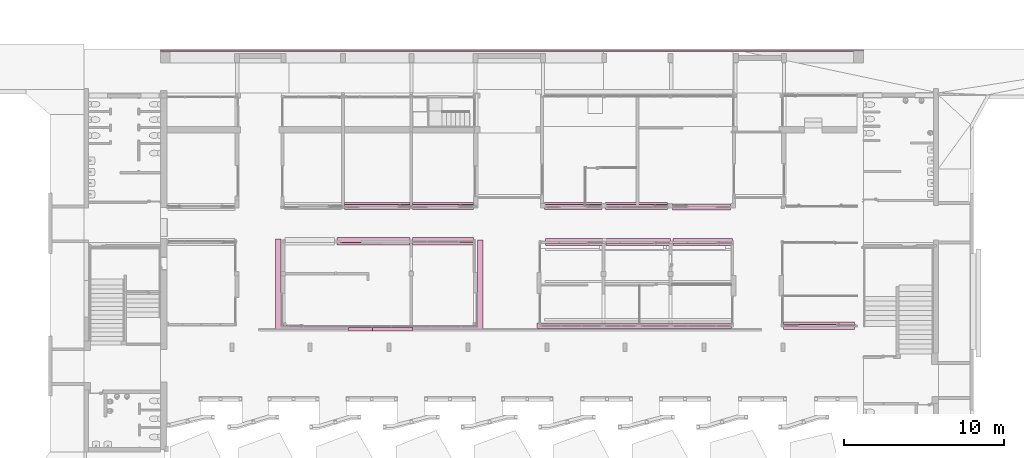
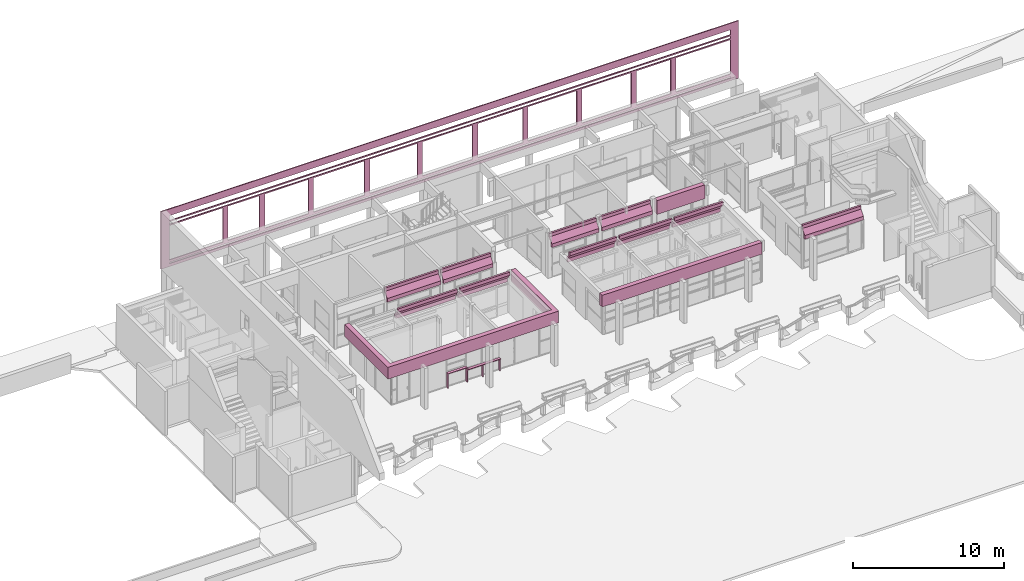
# One storey, part 114 of 117: 13 furniture elements.
"""IFC4 building model written with IfcOpenShell, lengths in metres."""

from ifc_helpers import new_model, entity, si_unit, converted_unit, derived_unit, direction, frame, origin, place, context, subcontext, project, spatial, indexed_curve, outline, extrude, source, transform, mapped, material, type_object, type_shapes, element, save


model = new_model("IFC4")

# Units and contexts
model_context = context("Model", 3, precision=1e-05, world=origin(), true_north=direction((6.123031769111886e-17, 1.0)))
body_context = subcontext(model_context, "Body", "Model", "MODEL_VIEW")
ifc_project = project(units=[si_unit("LENGTHUNIT", "METRE"), si_unit("AREAUNIT", "SQUARE_METRE"), si_unit("VOLUMEUNIT", "CUBIC_METRE"), converted_unit("PLANEANGLEUNIT", "DEGREE", entity("IfcRatioMeasure", 0.017453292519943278), si_unit("PLANEANGLEUNIT", "RADIAN"), dimensions=[0, 0, 0, 0, 0, 0, 0]), si_unit("MASSUNIT", "GRAM", prefix="KILO"), derived_unit("MASSDENSITYUNIT", [(si_unit("MASSUNIT", "GRAM", prefix="KILO"), 1), (si_unit("LENGTHUNIT", "METRE"), -3)]), derived_unit("MOMENTOFINERTIAUNIT", [(si_unit("LENGTHUNIT", "METRE"), 4)]), si_unit("TIMEUNIT", "SECOND"), si_unit("FREQUENCYUNIT", "HERTZ"), si_unit("THERMODYNAMICTEMPERATUREUNIT", "DEGREE_CELSIUS"), derived_unit("THERMALTRANSMITTANCEUNIT", [(si_unit("MASSUNIT", "GRAM", prefix="KILO"), 1), (si_unit("THERMODYNAMICTEMPERATUREUNIT", "KELVIN"), -1), (si_unit("TIMEUNIT", "SECOND"), -3)]), derived_unit("VOLUMETRICFLOWRATEUNIT", [(si_unit("LENGTHUNIT", "METRE"), 3), (si_unit("TIMEUNIT", "SECOND"), -1)]), derived_unit("MASSFLOWRATEUNIT", [(si_unit("MASSUNIT", "GRAM", prefix="KILO"), 1), (si_unit("TIMEUNIT", "SECOND"), -1)]), derived_unit("ROTATIONALFREQUENCYUNIT", [(si_unit("TIMEUNIT", "SECOND"), -1)]), si_unit("ELECTRICCURRENTUNIT", "AMPERE"), si_unit("ELECTRICVOLTAGEUNIT", "VOLT"), si_unit("POWERUNIT", "WATT"), si_unit("FORCEUNIT", "NEWTON", prefix="KILO"), si_unit("ILLUMINANCEUNIT", "LUX"), si_unit("LUMINOUSFLUXUNIT", "LUMEN"), si_unit("LUMINOUSINTENSITYUNIT", "CANDELA"), derived_unit("USERDEFINED", [(si_unit("MASSUNIT", "GRAM", prefix="KILO"), -1), (si_unit("LENGTHUNIT", "METRE"), -2), (si_unit("TIMEUNIT", "SECOND"), 3), (si_unit("LUMINOUSFLUXUNIT", "LUMEN"), 1)]), derived_unit("SOUNDPOWERUNIT", [(si_unit("MASSUNIT", "GRAM", prefix="KILO"), 1), (si_unit("LENGTHUNIT", "METRE"), 2), (si_unit("TIMEUNIT", "SECOND"), -3)]), derived_unit("SOUNDPRESSUREUNIT", [(si_unit("MASSUNIT", "GRAM", prefix="KILO"), 1), (si_unit("LENGTHUNIT", "METRE"), -1), (si_unit("TIMEUNIT", "SECOND"), -2)]), derived_unit("LINEARVELOCITYUNIT", [(si_unit("LENGTHUNIT", "METRE"), 1), (si_unit("TIMEUNIT", "SECOND"), -1)]), si_unit("PRESSUREUNIT", "PASCAL"), derived_unit("USERDEFINED", [(si_unit("LENGTHUNIT", "METRE"), -2), (si_unit("MASSUNIT", "GRAM", prefix="KILO"), 1), (si_unit("TIMEUNIT", "SECOND"), -2)]), derived_unit("LINEARFORCEUNIT", [(si_unit("MASSUNIT", "GRAM", prefix="KILO"), 1), (si_unit("LENGTHUNIT", "METRE"), 1), (si_unit("TIMEUNIT", "SECOND"), -2), (si_unit("LENGTHUNIT", "METRE"), -1)]), derived_unit("PLANARFORCEUNIT", [(si_unit("MASSUNIT", "GRAM", prefix="KILO"), 1), (si_unit("LENGTHUNIT", "METRE"), 1), (si_unit("TIMEUNIT", "SECOND"), -2), (si_unit("LENGTHUNIT", "METRE"), -2)])], contexts=[model_context])

# Site, building, storey
site_placement = place(None, origin())
site = spatial("IfcSite", under=ifc_project, at=site_placement, Name="Superficie", CompositionType="ELEMENT")
building_placement = place(site_placement, origin())
building = spatial("IfcBuilding", under=site, at=building_placement, CompositionType="ELEMENT")
storey_placement = place(building_placement, origin())
storey = spatial("IfcBuildingStorey", under=building, at=storey_placement, Name="Nivel 0", CompositionType="ELEMENT", Elevation=0.0)

# Furniture
ifc_material = material(Name="Madera - Listel", Category="Madera")
furniture_type_1 = type_object("IfcFurnitureType", Name="tramo 2:tramo 1", AssemblyPlace="NOTDEFINED", PredefinedType="NOTDEFINED", material=ifc_material)
shared_shape_1 = source(origin(), body_context, "Body", "SweptSolid", [
    extrude(outline(indexed_curve([(-0.1600000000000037, -1.4520987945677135), (-0.06000000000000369, -1.4520987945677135), (0.18999999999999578, -1.4520987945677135), (0.1900000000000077, 2.178148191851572), (-0.1599999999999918, 2.1781481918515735), (-0.1600000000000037, -1.4520987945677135)], self_intersect=False)), frame((11.219700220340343, 5.716739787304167, 2.3352405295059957), z_axis=(0.0, 0.0, 1.0), x_axis=(0.0, 1.0, 0.0)), (0.0, 0.0, 1.0), 1.1103842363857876),
    extrude(outline(indexed_curve([(-5.471879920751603, -2.2616023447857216), (-5.471879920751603, 3.064767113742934), (-5.821879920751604, 3.064767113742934), (-5.821879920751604, -2.6116023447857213), (-5.481879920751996, -2.6116023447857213), (7.192349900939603, -2.611602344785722), (7.192349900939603, 3.1142387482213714), (6.8423499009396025, 3.11423874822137), (6.8423499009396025, -2.2616023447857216), (-5.471879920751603, -2.2616023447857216)], self_intersect=False)), frame((-8.655851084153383, 0.6061983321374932, 2.35), z_axis=(0.0, 0.0, -1.0), x_axis=(-1.0, 0.0, 0.0)), (0.0, 0.0, -1.0), 0.9499999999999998),
    extrude(outline(indexed_curve([(-6.089999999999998, -0.1717666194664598), (6.089999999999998, -0.1717666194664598), (6.089999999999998, 0.1717666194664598), (-6.089999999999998, 0.1717666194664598), (-6.089999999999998, -0.1717666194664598)], self_intersect=False)), frame((6.6317990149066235, -1.721329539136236, 2.3600000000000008), z_axis=(0.0, 0.0, 1.0), x_axis=(-1.0, 0.0, 0.0)), (0.0, 0.0, 1.0), 0.9399999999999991),
])
type_shapes(furniture_type_1, [shared_shape_1])
furniture_1_placement = place(storey_placement, origin())
element("IfcFurniture", 1, at=furniture_1_placement, inside=storey, type_object=furniture_type_1, material=ifc_material, Name="tramo 2:tramo 1", ObjectType="tramo 2:tramo 1", PredefinedType="NOTDEFINED", context=body_context, shape_type="MappedRepresentation", body=[
    mapped(shared_shape_1, transform((0.0, 0.0, 0.0), scale=1.0)),
])
furniture_type_2 = type_object("IfcFurnitureType", Name="Mobiliario 4:Mobiliario 4", AssemblyPlace="NOTDEFINED", PredefinedType="NOTDEFINED", material=ifc_material)
shared_shape_2 = source(origin(), body_context, "Body", "SweptSolid", [
    extrude(outline(indexed_curve([(-0.49000000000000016, -0.22500000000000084), (-0.1900000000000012, -0.22500000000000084), (0.20999999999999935, 0.07499999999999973), (0.4699999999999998, 0.07499999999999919), (0.4699999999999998, 0.22499999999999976), (0.21000000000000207, 0.22499999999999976), (-0.1900000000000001, -0.07500000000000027), (-0.49000000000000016, -0.07500000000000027), (-0.49000000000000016, -0.22500000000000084)], self_intersect=False)), frame((9.071001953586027, 3.53082928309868, 2.9299999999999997), z_axis=(1.0, 0.0, 0.0), x_axis=(0.0, 0.0, 1.0)), (0.0, 0.0, 1.0), 3.7149999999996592),
])
type_shapes(furniture_type_2, [shared_shape_2])
furniture_2_placement = place(storey_placement, origin())
element("IfcFurniture", 2, at=furniture_2_placement, inside=storey, type_object=furniture_type_2, material=ifc_material, Name="Mobiliario 4:Mobiliario 4", ObjectType="Mobiliario 4:Mobiliario 4", PredefinedType="NOTDEFINED", context=body_context, shape_type="MappedRepresentation", body=[
    mapped(shared_shape_2, transform((0.0, 0.0, 0.0), scale=1.0)),
])
furniture_type_3 = type_object("IfcFurnitureType", Name="Mobiliario 3:Mobiliario 4", AssemblyPlace="NOTDEFINED", PredefinedType="NOTDEFINED", material=ifc_material)
shared_shape_3 = source(origin(), body_context, "Body", "SweptSolid", [
    extrude(outline(indexed_curve([(-0.49000000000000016, -0.22500000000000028), (-0.1900000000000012, -0.22500000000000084), (0.20999999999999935, 0.07500000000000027), (0.4699999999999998, 0.07499999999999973), (0.4699999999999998, 0.22500000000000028), (0.21000000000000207, 0.22500000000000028), (-0.1900000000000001, -0.07499999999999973), (-0.49000000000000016, -0.07499999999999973), (-0.49000000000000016, -0.22500000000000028)], self_intersect=False)), frame((4.871001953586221, 3.530829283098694, 2.9299999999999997), z_axis=(1.0, 0.0, 0.0), x_axis=(0.0, 0.0, 1.0)), (0.0, 0.0, 1.0), 4.019999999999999),
])
type_shapes(furniture_type_3, [shared_shape_3])
furniture_3_placement = place(storey_placement, origin())
element("IfcFurniture", 3, at=furniture_3_placement, inside=storey, type_object=furniture_type_3, material=ifc_material, Name="Mobiliario 3:Mobiliario 4", ObjectType="Mobiliario 3:Mobiliario 4", PredefinedType="NOTDEFINED", context=body_context, shape_type="MappedRepresentation", body=[
    mapped(shared_shape_3, transform((0.0, 0.0, 0.0), scale=1.0)),
])
furniture_type_4 = type_object("IfcFurnitureType", Name="Mobiliario 5:Mobiliario 4", AssemblyPlace="NOTDEFINED", PredefinedType="NOTDEFINED", material=ifc_material)
shared_shape_4 = source(origin(), body_context, "Body", "SweptSolid", [
    extrude(outline(indexed_curve([(-0.49000000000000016, -0.22500000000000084), (-0.1900000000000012, -0.22500000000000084), (0.20999999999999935, 0.07499999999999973), (0.4699999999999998, 0.07499999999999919), (0.4699999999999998, 0.22499999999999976), (0.21000000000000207, 0.22499999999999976), (-0.1900000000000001, -0.07500000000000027), (-0.49000000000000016, -0.07500000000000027), (-0.49000000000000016, -0.22500000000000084)], self_intersect=False)), frame((1.0810019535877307, 3.530829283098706, 2.9299999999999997), z_axis=(1.0, 0.0, 0.0), x_axis=(0.0, 0.0, 1.0)), (0.0, 0.0, 1.0), 3.600000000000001),
])
type_shapes(furniture_type_4, [shared_shape_4])
furniture_4_placement = place(storey_placement, origin())
element("IfcFurniture", 4, at=furniture_4_placement, inside=storey, type_object=furniture_type_4, material=ifc_material, Name="Mobiliario 5:Mobiliario 4", ObjectType="Mobiliario 5:Mobiliario 4", PredefinedType="NOTDEFINED", context=body_context, shape_type="MappedRepresentation", body=[
    mapped(shared_shape_4, transform((0.0, 0.0, 0.0), scale=1.0)),
])
furniture_type_5 = type_object("IfcFurnitureType", Name="Mobiliario 6:Mobiliario 4", AssemblyPlace="NOTDEFINED", PredefinedType="NOTDEFINED", material=ifc_material)
shared_shape_5 = source(origin(), body_context, "Body", "SweptSolid", [
    extrude(outline(indexed_curve([(-0.49000000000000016, -0.22499999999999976), (-0.1900000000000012, -0.22499999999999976), (0.20999999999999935, 0.07500000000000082), (0.4699999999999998, 0.07500000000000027), (0.4699999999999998, 0.22500000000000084), (0.21000000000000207, 0.22500000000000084), (-0.1900000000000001, -0.07499999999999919), (-0.49000000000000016, -0.07499999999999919), (-0.49000000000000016, -0.22499999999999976)], self_intersect=False)), frame((-6.633998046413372, 3.530829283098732, 2.9299999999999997), z_axis=(1.0, 0.0, 0.0), x_axis=(0.0, 0.0, 1.0)), (0.0, 0.0, 1.0), 3.799999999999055),
])
type_shapes(furniture_type_5, [shared_shape_5])
furniture_5_placement = place(storey_placement, frame((-0.6192029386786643, 0.054607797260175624, 0.0)))
element("IfcFurniture", 5, at=furniture_5_placement, inside=storey, type_object=furniture_type_5, material=ifc_material, Name="Mobiliario 6:Mobiliario 4", ObjectType="Mobiliario 6:Mobiliario 4", PredefinedType="NOTDEFINED", context=body_context, shape_type="MappedRepresentation", body=[
    mapped(shared_shape_5, transform((0.0, 0.0, 0.0), scale=1.0)),
])
furniture_type_6 = type_object("IfcFurnitureType", Name="Mobiliario 7:Mobiliario 4", AssemblyPlace="NOTDEFINED", PredefinedType="NOTDEFINED", material=ifc_material)
shared_shape_6 = source(origin(), body_context, "Body", "SweptSolid", [
    extrude(outline(indexed_curve([(-0.49000000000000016, -0.22500000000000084), (-0.1900000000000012, -0.22500000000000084), (0.20999999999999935, 0.07499999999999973), (0.4699999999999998, 0.07499999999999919), (0.4699999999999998, 0.22499999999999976), (0.21000000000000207, 0.22499999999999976), (-0.1900000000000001, -0.07500000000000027), (-0.49000000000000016, -0.07500000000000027), (-0.49000000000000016, -0.22500000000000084)], self_intersect=False)), frame((-11.363200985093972, 3.530829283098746, 2.9299999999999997), z_axis=(1.0, 0.0, 0.0), x_axis=(0.0, 0.0, 1.0)), (0.0, 0.0, 1.0), 4.549202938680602),
])
type_shapes(furniture_type_6, [shared_shape_6])
furniture_6_placement = place(storey_placement, frame((-0.6192029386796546, 0.054607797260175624, 0.0)))
element("IfcFurniture", 6, at=furniture_6_placement, inside=storey, type_object=furniture_type_6, material=ifc_material, Name="Mobiliario 7:Mobiliario 4", ObjectType="Mobiliario 7:Mobiliario 4", PredefinedType="NOTDEFINED", context=body_context, shape_type="MappedRepresentation", body=[
    mapped(shared_shape_6, transform((0.0, 0.0, 0.0), scale=1.0)),
])
furniture_type_7 = type_object("IfcFurnitureType", Name="Mobiliario 12:Mobiliario 4", AssemblyPlace="NOTDEFINED", PredefinedType="NOTDEFINED", material=ifc_material)
shared_shape_7 = source(origin(), body_context, "Body", "SweptSolid", [
    extrude(outline(indexed_curve([(-0.22499999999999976, -0.49000000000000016), (-0.07499999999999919, -0.49000000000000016), (-0.07499999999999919, -0.1900000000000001), (0.22499999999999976, 0.210000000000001), (0.22499999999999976, 0.4699999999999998), (0.07499999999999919, 0.4699999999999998), (0.07500000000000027, 0.20999999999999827), (-0.22499999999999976, -0.1900000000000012), (-0.22499999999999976, -0.49000000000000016)], self_intersect=False)), frame((-11.523200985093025, 5.800467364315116, 2.9299999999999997), z_axis=(1.0, 0.0, 0.0), x_axis=(0.0, 1.0, 0.0)), (0.0, 0.0, 1.0), 4.090000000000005),
])
type_shapes(furniture_type_7, [shared_shape_7])
furniture_7_placement = place(storey_placement, origin())
element("IfcFurniture", 7, at=furniture_7_placement, inside=storey, type_object=furniture_type_7, material=ifc_material, Name="Mobiliario 12:Mobiliario 4", ObjectType="Mobiliario 12:Mobiliario 4", PredefinedType="NOTDEFINED", context=body_context, shape_type="MappedRepresentation", body=[
    mapped(shared_shape_7, transform((0.0, 0.0, 0.0), scale=1.0)),
])
furniture_type_8 = type_object("IfcFurnitureType", Name="Mobiliario 13:Mobiliario 4", AssemblyPlace="NOTDEFINED", PredefinedType="NOTDEFINED", material=ifc_material)
shared_shape_8 = source(origin(), body_context, "Body", "SweptSolid", [
    extrude(outline(indexed_curve([(-0.22499999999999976, -0.49000000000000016), (-0.07499999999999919, -0.49000000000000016), (-0.07499999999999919, -0.1900000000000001), (0.22499999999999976, 0.210000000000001), (0.22499999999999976, 0.4699999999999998), (0.07499999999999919, 0.4699999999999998), (0.07500000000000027, 0.20999999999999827), (-0.22499999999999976, -0.1900000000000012), (-0.22499999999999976, -0.49000000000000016)], self_intersect=False)), frame((-7.253200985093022, 5.800467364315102, 2.9299999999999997), z_axis=(1.0, 0.0, 0.0), x_axis=(0.0, 1.0, 0.0)), (0.0, 0.0, 1.0), 3.8000000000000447),
])
type_shapes(furniture_type_8, [shared_shape_8])
furniture_8_placement = place(storey_placement, origin())
element("IfcFurniture", 8, at=furniture_8_placement, inside=storey, type_object=furniture_type_8, material=ifc_material, Name="Mobiliario 13:Mobiliario 4", ObjectType="Mobiliario 13:Mobiliario 4", PredefinedType="NOTDEFINED", context=body_context, shape_type="MappedRepresentation", body=[
    mapped(shared_shape_8, transform((0.0, 0.0, 0.0), scale=1.0)),
])
furniture_type_9 = type_object("IfcFurnitureType", Name="Mobiliario 14:Mobiliario 4", AssemblyPlace="NOTDEFINED", PredefinedType="NOTDEFINED", material=ifc_material)
shared_shape_9 = source(origin(), body_context, "Body", "SweptSolid", [
    extrude(outline(indexed_curve([(-0.22500000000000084, -0.49000000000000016), (-0.07500000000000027, -0.49000000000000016), (-0.07500000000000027, -0.1900000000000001), (0.22499999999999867, 0.210000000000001), (0.22499999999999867, 0.4699999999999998), (0.07499999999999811, 0.4699999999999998), (0.07499999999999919, 0.20999999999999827), (-0.22500000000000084, -0.1900000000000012), (-0.22500000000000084, -0.49000000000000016)], self_intersect=False)), frame((1.0615520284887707, 5.980829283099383, 2.9299999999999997), z_axis=(1.0, 0.0, 0.0), x_axis=(0.0, 1.0, 0.0)), (0.0, 0.0, 1.0), 3.584202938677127),
])
type_shapes(furniture_type_9, [shared_shape_9])
furniture_9_placement = place(storey_placement, frame((-0.039999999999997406, -0.18036191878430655, 0.0)))
element("IfcFurniture", 9, at=furniture_9_placement, inside=storey, type_object=furniture_type_9, material=ifc_material, Name="Mobiliario 14:Mobiliario 4", ObjectType="Mobiliario 14:Mobiliario 4", PredefinedType="NOTDEFINED", context=body_context, shape_type="MappedRepresentation", body=[
    mapped(shared_shape_9, transform((0.0, 0.0, 0.0), scale=1.0)),
])
furniture_type_10 = type_object("IfcFurnitureType", Name="Mobiliario 16:Mobiliario 4", AssemblyPlace="NOTDEFINED", PredefinedType="NOTDEFINED", material=ifc_material)
shared_shape_10 = source(origin(), body_context, "Body", "SweptSolid", [
    extrude(outline(indexed_curve([(-0.225, -0.49000000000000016), (-0.07499999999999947, -0.49000000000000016), (-0.07499999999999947, -0.1900000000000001), (0.22499999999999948, 0.210000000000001), (0.22499999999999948, 0.4699999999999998), (0.07499999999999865, 0.4699999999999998), (0.07499999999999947, 0.20999999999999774), (-0.225, -0.1900000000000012), (-0.225, -0.49000000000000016)], self_intersect=False)), frame((15.966799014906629, -1.7103873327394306, 2.9299999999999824), z_axis=(1.0, 0.0, 0.0), x_axis=(0.0, 1.0, 0.0)), (0.0, 0.0, 1.0), 4.469999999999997),
])
type_shapes(furniture_type_10, [shared_shape_10])
furniture_10_placement = place(storey_placement, origin())
element("IfcFurniture", 10, at=furniture_10_placement, inside=storey, type_object=furniture_type_10, material=ifc_material, Name="Mobiliario 16:Mobiliario 4", ObjectType="Mobiliario 16:Mobiliario 4", PredefinedType="NOTDEFINED", context=body_context, shape_type="MappedRepresentation", body=[
    mapped(shared_shape_10, transform((0.0, 0.0, 0.0), scale=1.0)),
])
furniture_type_11 = type_object("IfcFurnitureType", Name="Mostrador:Mostrador", AssemblyPlace="NOTDEFINED", PredefinedType="NOTDEFINED", material=ifc_material)
shared_shape_11 = source(origin(), body_context, "Body", "SweptSolid", [
    extrude(outline(indexed_curve([(-0.10499999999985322, -1.2607825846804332), (0.10499999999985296, -1.2607825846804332), (0.10499999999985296, 1.2607825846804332), (-0.10499999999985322, 1.2607825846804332), (-0.10499999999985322, -1.2607825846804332)], self_intersect=False)), frame((-8.513983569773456, -1.9191707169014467, 0.95), z_axis=(0.0, 0.0, 1.0), x_axis=(0.0, 1.0, 0.0)), (0.0, 0.0, 1.0), 0.05),
    extrude(outline(indexed_curve([(-0.10499999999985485, -0.02499999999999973), (0.10499999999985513, -0.02499999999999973), (0.10499999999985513, 0.02499999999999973), (-0.10499999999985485, 0.02499999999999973), (-0.10499999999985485, -0.02499999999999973)], self_intersect=False)), frame((-8.584766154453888, -1.8957554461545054, 0.0), z_axis=(0.0, 0.0, 1.0), x_axis=(0.0, -1.0, 0.0)), (0.0, 0.0, 1.0), 0.95),
    extrude(outline(indexed_curve([(-0.10499999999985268, -0.02499999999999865), (0.10499999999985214, -0.02499999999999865), (0.10499999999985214, 0.025000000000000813), (-0.10499999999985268, 0.025000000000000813), (-0.10499999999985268, -0.02499999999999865)], self_intersect=False)), frame((-7.278200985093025, -1.8957554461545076, 0.0), z_axis=(0.0, 0.0, 1.0), x_axis=(0.0, -1.0, 0.0)), (0.0, 0.0, 1.0), 0.95),
    extrude(outline(indexed_curve([(-0.10499999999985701, -0.7525000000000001), (0.10499999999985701, -0.7525000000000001), (0.10499999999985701, 0.7524999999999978), (-0.10499999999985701, 0.7524999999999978), (-0.10499999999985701, -0.7525000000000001)], self_intersect=False)), frame((-10.52726615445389, -1.919170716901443, 1.15), z_axis=(0.0, 0.0, 1.0), x_axis=(0.0, 1.0, 0.0)), (0.0, 0.0, 1.0), 0.05),
    extrude(outline(indexed_curve([(-0.02499999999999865, -0.10499999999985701), (0.025000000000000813, -0.10499999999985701), (0.025000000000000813, 0.10499999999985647), (-0.02499999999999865, 0.10499999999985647), (-0.02499999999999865, -0.10499999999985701)], self_intersect=False)), frame((-9.79976615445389, -1.9191707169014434, 0.0), z_axis=(0.0, 0.0, 1.0), x_axis=(-1.0, 0.0, 0.0)), (0.0, 0.0, 1.0), 1.15),
    extrude(outline(indexed_curve([(-0.02499999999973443, -0.10499999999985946), (0.02499999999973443, -0.10499999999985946), (0.02499999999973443, 0.10499999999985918), (-0.02499999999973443, 0.10499999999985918), (-0.02499999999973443, -0.10499999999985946)], self_intersect=False)), frame((-11.254766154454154, -1.9191707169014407, 0.0), z_axis=(0.0, 0.0, 1.0), x_axis=(-1.0, 0.0, 0.0)), (0.0, 0.0, 1.0), 1.15),
])
type_shapes(furniture_type_11, [shared_shape_11])
furniture_11_placement = place(storey_placement, origin())
element("IfcFurniture", 11, at=furniture_11_placement, inside=storey, type_object=furniture_type_11, material=ifc_material, Name="Mostrador:Mostrador", ObjectType="Mostrador:Mostrador", PredefinedType="NOTDEFINED", context=body_context, shape_type="MappedRepresentation", body=[
    mapped(shared_shape_11, transform((0.0, 0.0, 0.0), scale=1.0)),
])
furniture_type_12 = type_object("IfcFurnitureType", Name="Mobiliario 17:Mobiliario 4", AssemblyPlace="NOTDEFINED", PredefinedType="NOTDEFINED", material=ifc_material)
shared_shape_12 = source(origin(), body_context, "Body", "SweptSolid", [
    extrude(outline(indexed_curve([(-0.22500000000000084, -0.49000000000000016), (-0.07500000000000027, -0.49000000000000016), (-0.07500000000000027, -0.1900000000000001), (0.22499999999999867, 0.210000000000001), (0.22499999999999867, 0.4699999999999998), (0.07499999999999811, 0.4699999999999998), (0.07499999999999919, 0.20999999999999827), (-0.22500000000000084, -0.1900000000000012), (-0.22500000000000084, -0.49000000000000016)], self_intersect=False)), frame((4.881552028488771, 5.9808292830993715, 2.9299999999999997), z_axis=(1.0, 0.0, 0.0), x_axis=(0.0, 1.0, 0.0)), (0.0, 0.0, 1.0), 3.8600000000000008),
])
type_shapes(furniture_type_12, [shared_shape_12])
furniture_12_placement = place(storey_placement, frame((-0.039999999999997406, -0.18036191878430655, 0.0)))
element("IfcFurniture", 12, at=furniture_12_placement, inside=storey, type_object=furniture_type_12, material=ifc_material, Name="Mobiliario 17:Mobiliario 4", ObjectType="Mobiliario 17:Mobiliario 4", PredefinedType="NOTDEFINED", context=body_context, shape_type="MappedRepresentation", body=[
    mapped(shared_shape_12, transform((0.0, 0.0, 0.0), scale=1.0)),
])
furniture_type_13 = type_object("IfcFurnitureType", Name="fachada:fachada", AssemblyPlace="NOTDEFINED", PredefinedType="NOTDEFINED", material=ifc_material)
shared_shape_13 = source(origin(), body_context, "Body", "SweptSolid", [
    extrude(outline(indexed_curve([(-2.3200000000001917, -22.014999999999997), (2.3200000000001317, -22.014999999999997), (2.3200000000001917, 22.014999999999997), (-2.320000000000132, 22.014999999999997), (-2.3200000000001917, -22.014999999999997)], self_intersect=False), holes=[indexed_curve([(-0.9769510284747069, -21.374999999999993), (-0.9769510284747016, -17.236230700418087), (1.779999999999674, -17.236230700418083), (1.7799999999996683, -21.374999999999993), (-0.9769510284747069, -21.374999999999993)], self_intersect=False), indexed_curve([(2.0799999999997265, 21.374999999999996), (2.0799999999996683, -21.374999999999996), (1.9799999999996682, -21.374999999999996), (1.9799999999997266, 21.374999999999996), (2.0799999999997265, 21.374999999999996)], self_intersect=False), indexed_curve([(-1.076951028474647, 21.375), (-1.076951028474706, -21.374999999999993), (-1.276951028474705, -21.375000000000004), (-1.276951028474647, 21.374999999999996), (-1.076951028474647, 21.375)], self_intersect=False), indexed_curve([(-1.376951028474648, 21.374999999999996), (-1.376951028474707, -21.374999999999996), (-1.776951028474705, -21.375000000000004), (-1.776951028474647, 21.374999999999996), (-1.376951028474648, 21.374999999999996)], self_intersect=False), indexed_curve([(-0.9769510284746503, 21.374999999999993), (1.7799999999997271, 21.374999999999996), (1.7799999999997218, 17.310246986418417), (-0.9769510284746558, 17.31024698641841), (-0.9769510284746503, 21.374999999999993)], self_intersect=False), indexed_curve([(1.779999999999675, -16.83623070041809), (-0.9769510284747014, -16.836230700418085), (-0.9769510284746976, -14.225000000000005), (1.7799999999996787, -14.225000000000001), (1.779999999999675, -16.83623070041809)], self_intersect=False), indexed_curve([(1.779999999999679, -13.825000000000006), (-0.9769510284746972, -13.825000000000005), (-0.9769510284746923, -10.069753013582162), (1.7799999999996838, -10.069753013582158), (1.779999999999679, -13.825000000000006)], self_intersect=False), indexed_curve([(-0.9769510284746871, -5.959345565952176), (1.7799999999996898, -5.959345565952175), (1.779999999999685, -9.66975301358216), (-0.9769510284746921, -9.669753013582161), (-0.9769510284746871, -5.959345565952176)], self_intersect=False), indexed_curve([(1.7799999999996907, -5.559345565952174), (-0.9769510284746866, -5.559345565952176), (-0.9769510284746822, -2.1397530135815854), (1.7799999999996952, -2.13975301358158), (1.7799999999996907, -5.559345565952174)], self_intersect=False), indexed_curve([(1.779999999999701, 2.074999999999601), (1.7799999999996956, -1.7397530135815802), (-0.9769510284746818, -1.7397530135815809), (-0.9769510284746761, 2.0749999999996), (1.779999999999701, 2.074999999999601)], self_intersect=False), indexed_curve([(1.7799999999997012, 2.474999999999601), (-0.9769510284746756, 2.4749999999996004), (-0.9769510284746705, 6.094999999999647), (1.7799999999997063, 6.094999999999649), (1.7799999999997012, 2.474999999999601)], self_intersect=False), indexed_curve([(1.7799999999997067, 6.494999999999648), (-0.9769510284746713, 6.4949999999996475), (-0.9769510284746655, 10.384999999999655), (1.7799999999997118, 10.384999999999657), (1.7799999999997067, 6.494999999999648)], self_intersect=False), indexed_curve([(1.7799999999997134, 10.784999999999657), (-0.9769510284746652, 10.784999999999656), (-0.9769510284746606, 14.110246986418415), (1.7799999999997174, 14.110246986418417), (1.7799999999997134, 10.784999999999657)], self_intersect=False), indexed_curve([(1.7799999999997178, 14.510246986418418), (-0.9769510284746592, 14.510246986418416), (-0.9769510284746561, 16.910246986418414), (1.7799999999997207, 16.910246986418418), (1.7799999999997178, 14.510246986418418)], self_intersect=False)]), frame((-1.0282009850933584, 15.265458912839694, 5.439999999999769), z_axis=(0.0, 1.0, 0.0), x_axis=(0.0, 0.0, -1.0)), (0.0, 0.0, 1.0), 0.06999999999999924),
])
type_shapes(furniture_type_13, [shared_shape_13])
furniture_13_placement = place(storey_placement, frame((0.0, 0.2203703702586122, 0.0)))
element("IfcFurniture", 13, at=furniture_13_placement, inside=storey, type_object=furniture_type_13, material=ifc_material, Name="fachada:fachada", ObjectType="fachada:fachada", PredefinedType="NOTDEFINED", context=body_context, shape_type="MappedRepresentation", body=[
    mapped(shared_shape_13, transform((0.0, 0.0, 0.0), scale=1.0)),
])

save(model, "model.ifc")
